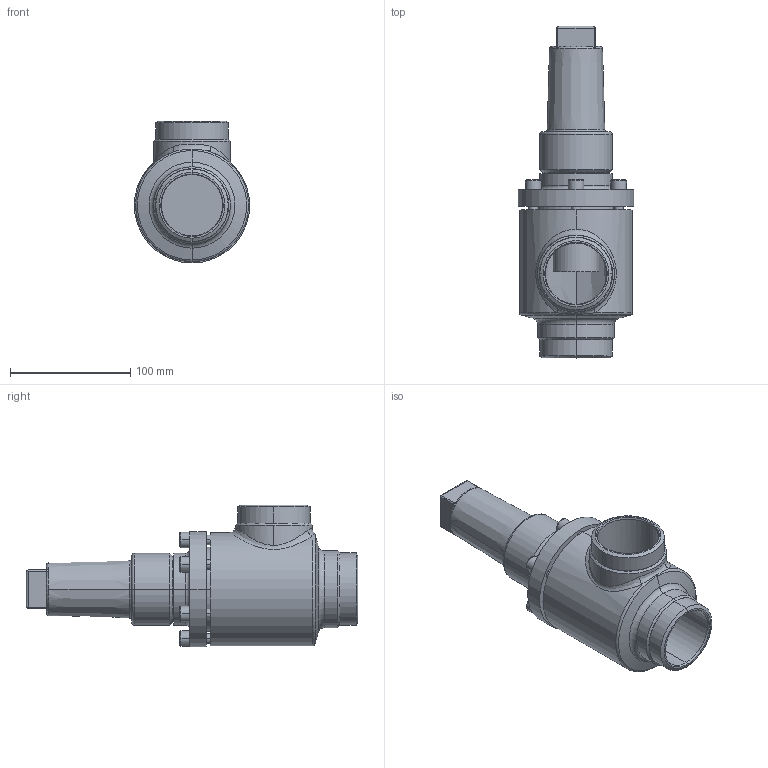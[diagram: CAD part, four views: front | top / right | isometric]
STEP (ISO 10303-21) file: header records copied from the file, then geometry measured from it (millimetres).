
FILE_DESCRIPTION (( 'STEP AP214' ), '1' );
FILE_NAME ('AVR26400D15-DN050_R1_PS40.STEP', '2006-04-27T13:42:40', ( 'Herr Grams' ), ( 'AWP GmbH' ), 'SwSTEP 2.0', 'SolidWorks 2002296', '' );
FILE_SCHEMA (( 'AUTOMOTIVE_DESIGN' ));
Length unit declared in the file: millimetre
Products named in the file (6): AVR26400D15-DN050_R1_PS40; Gehäuse16400-DN050_Standard; AVR26300E15_Deck+Schr-DN40-50_Standard; Deckel26300E15-DN40-50_Standard; Zylinderschraube-DIN912_M 8x 25; Kappe16402_DN040-65_Standard
Assembly tree (10 placements, depth 3):
  AVR26400D15-DN050_R1_PS40
    AVR26300E15_Deck+Schr-DN40-50_Standard
      Zylinderschraube-DIN912_M 8x 25  x6
      Deckel26300E15-DN40-50_Standard
    Gehäuse16400-DN050_Standard
    Kappe16402_DN040-65_Standard
Bounding box: 96 x 276 x 118 mm (x, y, z)
Volume: 719494.2 mm3; surface area: 153233.2 mm2
Topology: 9 solids, 9 shells, 252 faces, 551 edges, 346 vertices
Faces by surface type: plane 93, cylinder 92, cone 38, torus 27, bspline 2
Entity records: 14785 total; most frequent: CARTESIAN_POINT 10482, DIRECTION 859, ORIENTED_EDGE 722, AXIS2_PLACEMENT_3D 364, EDGE_CURVE 361, VERTEX_POINT 226, EDGE_LOOP 195, CIRCLE 190
